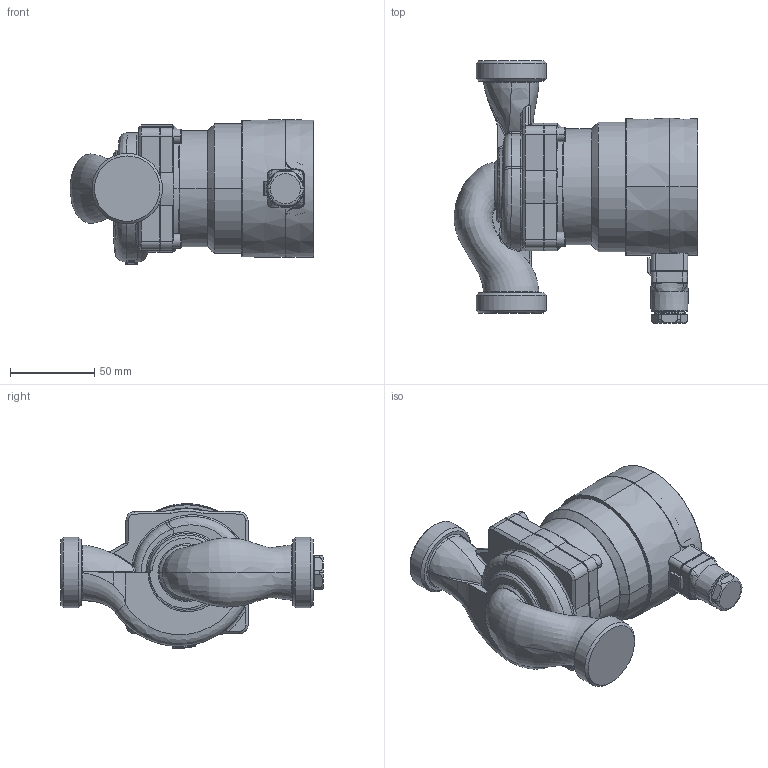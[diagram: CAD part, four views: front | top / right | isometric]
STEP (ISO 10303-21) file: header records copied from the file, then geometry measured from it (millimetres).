
FILE_DESCRIPTION(('FreeCAD Model'),'2;1');
FILE_NAME('//sbsimp02/Company/RAZVOJ/Projekti/NMT Mini/Tehnična dokumentacija/Katalogi/STEP_MODELI-SIMPLE_WEB/STEP/NMT_Mini_20-xx_150-g1_1-4_simple.stp','2021-10-04T08:36:35',('Author'),(''), 'Open CASCADE STEP processor 7.3','FreeCAD','Unknown');
FILE_SCHEMA(('AUTOMOTIVE_DESIGN { 1 0 10303 214 1 1 1 1 }'));
Products named in the file (1): Body
Bounding box: 144.94 x 156 x 86.01 mm (x, y, z)
Volume: 694289.8 mm3; surface area: 63540.2 mm2
Topology: 1 solids, 1 shells, 521 faces, 1260 edges, 751 vertices
Faces by surface type: bspline 195, plane 121, cylinder 113, torus 45, cone 32, sphere 9, extrusion 4, revolution 2
Full cylindrical faces by diameter (mm): 41.9 x2
Entity records: 90381 total; most frequent: CARTESIAN_POINT 68910, DIRECTION 2781, ORIENTED_EDGE 2520, PCURVE 2520, DEFINITIONAL_REPRESENTATION 2520, B_SPLINE_CURVE_WITH_KNOTS 1968, VECTOR 1395, LINE 1391
